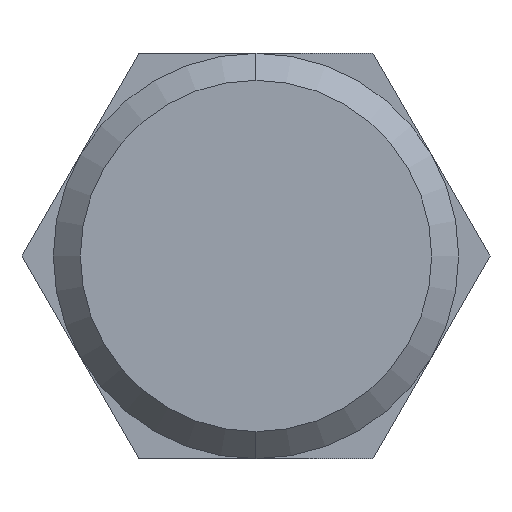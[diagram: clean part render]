
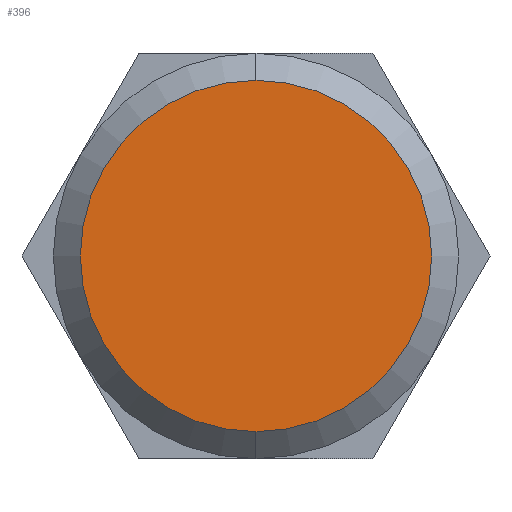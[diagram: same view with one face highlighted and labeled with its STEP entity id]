
A CAD part, left-side view. The second image highlights one B-rep face of the part: STEP entity #396.
In plain terms, the highlighted planar face has unit normal (-1, 0, 0).
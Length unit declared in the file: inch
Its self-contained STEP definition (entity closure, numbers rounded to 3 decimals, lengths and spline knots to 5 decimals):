
#24 = CARTESIAN_POINT ( 'NONE',  ( -2.834, 0., 0. ) ) ;
#25 = DIRECTION ( 'NONE',  ( 1., 0., 0. ) ) ;
#26 = DIRECTION ( 'NONE',  ( 0., 0., -1. ) ) ;
#82 = CARTESIAN_POINT ( 'NONE',  ( -2.834, 0., 0. ) ) ;
#83 = DIRECTION ( 'NONE',  ( 1., 0., 0. ) ) ;
#84 = DIRECTION ( 'NONE',  ( 0., 0., -1. ) ) ;
#139 = PLANE ( 'NONE',  #282 ) ;
#152 = CARTESIAN_POINT ( 'NONE',  ( -2.834, 0.3125, 0. ) ) ;
#153 = DIRECTION ( 'NONE',  ( -1., 0., 0. ) ) ;
#154 = DIRECTION ( 'NONE',  ( 0., 0., 1. ) ) ;
#235 = CARTESIAN_POINT ( 'NONE',  ( -2.834, 0., 0.5417 ) ) ;
#237 = CARTESIAN_POINT ( 'NONE',  ( -2.834, 0., -0.5417 ) ) ;
#282 = AXIS2_PLACEMENT_3D ( 'NONE', #152, #153, #154 ) ;
#300 = AXIS2_PLACEMENT_3D ( 'NONE', #82, #83, #84 ) ;
#313 = AXIS2_PLACEMENT_3D ( 'NONE', #24, #25, #26 ) ;
#333 = EDGE_CURVE ( 'NONE', #561, #559, #598, .T. ) ;
#357 = EDGE_CURVE ( 'NONE', #559, #561, #628, .T. ) ;
#396 = ADVANCED_FACE ( 'NONE', ( #697 ), #139, .T. ) ;
#428 = EDGE_LOOP ( 'NONE', ( #466, #467 ) ) ;
#466 = ORIENTED_EDGE ( 'NONE', *, *, #333, .F. ) ;
#467 = ORIENTED_EDGE ( 'NONE', *, *, #357, .F. ) ;
#559 = VERTEX_POINT ( 'NONE', #235 ) ;
#561 = VERTEX_POINT ( 'NONE', #237 ) ;
#598 = CIRCLE ( 'NONE', #313, 0.5417 ) ;
#628 = CIRCLE ( 'NONE', #300, 0.5417 ) ;
#697 = FACE_OUTER_BOUND ( 'NONE', #428, .T. ) ;
